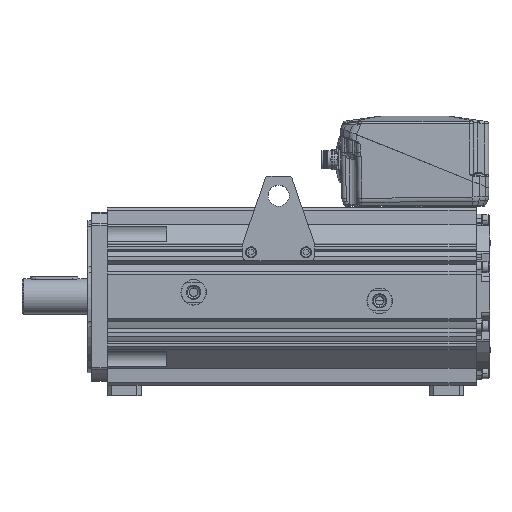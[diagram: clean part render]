
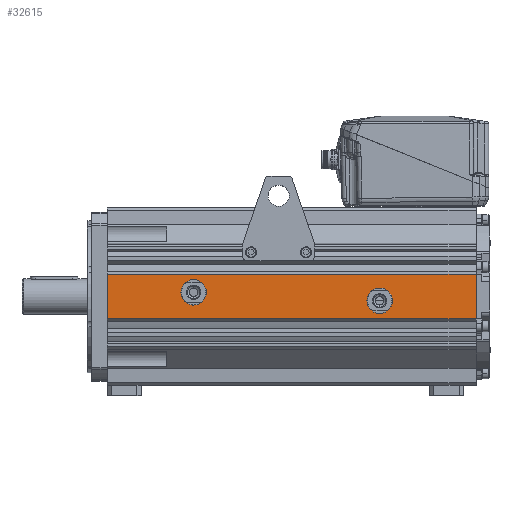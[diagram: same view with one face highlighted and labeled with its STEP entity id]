
A CAD part, top view. The second image highlights one B-rep face of the part: STEP entity #32615.
In plain terms, the highlighted planar face has unit normal (0, 0, 1).
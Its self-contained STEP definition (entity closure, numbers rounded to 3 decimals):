
#30034=DIRECTION('',(1.,0.,0.));
#30035=VECTOR('',#30034,436.);
#30036=CARTESIAN_POINT('',(101.,-26.5,105.));
#30037=LINE('',#30036,#30035);
#30038=DIRECTION('',(0.,1.,0.));
#30039=VECTOR('',#30038,53.);
#30040=CARTESIAN_POINT('',(101.,-26.5,105.));
#30041=LINE('',#30040,#30039);
#30042=DIRECTION('',(1.,0.,0.));
#30043=VECTOR('',#30042,436.);
#30044=CARTESIAN_POINT('',(101.,26.5,105.));
#30045=LINE('',#30044,#30043);
#30046=DIRECTION('',(0.,-1.,0.));
#30047=VECTOR('',#30046,53.);
#30048=CARTESIAN_POINT('',(537.,26.5,105.));
#30049=LINE('',#30048,#30047);
#30082=CARTESIAN_POINT('',(203.,5.,105.));
#30083=DIRECTION('',(0.,0.,-1.));
#30084=DIRECTION('',(1.,0.,0.));
#30085=AXIS2_PLACEMENT_3D('',#30082,#30083,#30084);
#30087=CARTESIAN_POINT('',(203.,5.,105.));
#30088=DIRECTION('',(0.,0.,-1.));
#30089=DIRECTION('',(-1.,0.,0.));
#30090=AXIS2_PLACEMENT_3D('',#30087,#30088,#30089);
#30092=CARTESIAN_POINT('',(423.,-5.,105.));
#30093=DIRECTION('',(0.,0.,-1.));
#30094=DIRECTION('',(1.,0.,0.));
#30095=AXIS2_PLACEMENT_3D('',#30092,#30093,#30094);
#30097=CARTESIAN_POINT('',(423.,-5.,105.));
#30098=DIRECTION('',(0.,0.,-1.));
#30099=DIRECTION('',(-1.,0.,0.));
#30100=AXIS2_PLACEMENT_3D('',#30097,#30098,#30099);
#31180=CARTESIAN_POINT('',(101.,26.5,105.));
#31181=VERTEX_POINT('',#31180);
#31188=CARTESIAN_POINT('',(537.,26.5,105.));
#31189=VERTEX_POINT('',#31188);
#31230=CARTESIAN_POINT('',(101.,-26.5,105.));
#31231=VERTEX_POINT('',#31230);
#31238=CARTESIAN_POINT('',(537.,-26.5,105.));
#31239=VERTEX_POINT('',#31238);
#31448=CARTESIAN_POINT('',(210.5,5.,105.));
#31449=CARTESIAN_POINT('',(195.5,5.,105.));
#31450=VERTEX_POINT('',#31448);
#31451=VERTEX_POINT('',#31449);
#31456=CARTESIAN_POINT('',(430.5,-5.,105.));
#31458=VERTEX_POINT('',#31456);
#31460=CARTESIAN_POINT('',(415.5,-5.,105.));
#31462=VERTEX_POINT('',#31460);
#32590=CARTESIAN_POINT('',(101.,62.,105.));
#32591=DIRECTION('',(0.,0.,1.));
#32592=DIRECTION('',(0.,-1.,0.));
#32593=AXIS2_PLACEMENT_3D('',#32590,#32591,#32592);
#32594=PLANE('',#32593);
#32596=ORIENTED_EDGE('',*,*,#32595,.F.);
#32597=ORIENTED_EDGE('',*,*,#31649,.T.);
#32599=ORIENTED_EDGE('',*,*,#32598,.T.);
#32600=ORIENTED_EDGE('',*,*,#32021,.T.);
#32601=EDGE_LOOP('',(#32596,#32597,#32599,#32600));
#32602=FACE_OUTER_BOUND('',#32601,.F.);
#32604=ORIENTED_EDGE('',*,*,#32603,.F.);
#32606=ORIENTED_EDGE('',*,*,#32605,.F.);
#32607=EDGE_LOOP('',(#32604,#32606));
#32608=FACE_BOUND('',#32607,.F.);
#32610=ORIENTED_EDGE('',*,*,#32609,.F.);
#32612=ORIENTED_EDGE('',*,*,#32611,.F.);
#32613=EDGE_LOOP('',(#32610,#32612));
#32614=FACE_BOUND('',#32613,.F.);
#32615=ADVANCED_FACE('',(#32602,#32608,#32614),#32594,.T.);
#30086=CIRCLE('',#30085,7.5);
#30091=CIRCLE('',#30090,7.5);
#30096=CIRCLE('',#30095,7.5);
#30101=CIRCLE('',#30100,7.5);
#31649=EDGE_CURVE('',#31231,#31181,#30041,.T.);
#32021=EDGE_CURVE('',#31189,#31239,#30049,.T.);
#32595=EDGE_CURVE('',#31231,#31239,#30037,.T.);
#32598=EDGE_CURVE('',#31181,#31189,#30045,.T.);
#32603=EDGE_CURVE('',#31450,#31451,#30086,.T.);
#32605=EDGE_CURVE('',#31451,#31450,#30091,.T.);
#32609=EDGE_CURVE('',#31458,#31462,#30096,.T.);
#32611=EDGE_CURVE('',#31462,#31458,#30101,.T.);
